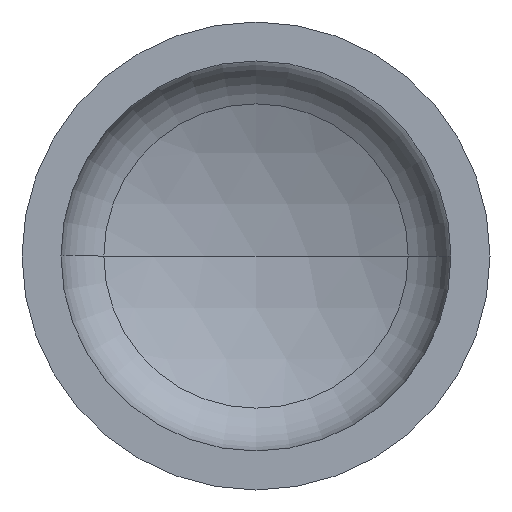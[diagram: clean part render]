
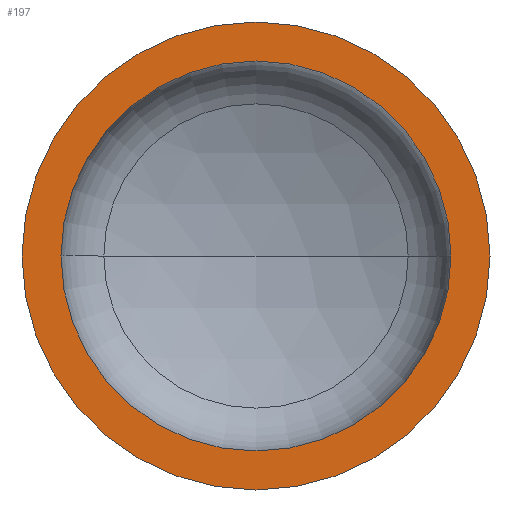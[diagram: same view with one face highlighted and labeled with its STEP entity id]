
A CAD part, front view. The second image highlights one B-rep face of the part: STEP entity #197.
In plain terms, the highlighted planar face has unit normal (0, -1, 0).
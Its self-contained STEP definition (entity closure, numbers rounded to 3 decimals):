
#6 = VERTEX_POINT ( 'NONE', #207 ) ;
#12 = AXIS2_PLACEMENT_3D ( 'NONE', #325, #385, #144 ) ;
#20 = EDGE_LOOP ( 'NONE', ( #254, #346 ) ) ;
#26 = CARTESIAN_POINT ( 'NONE',  ( -600., 0., 0. ) ) ;
#35 = DIRECTION ( 'NONE',  ( -1., 0., 0. ) ) ;
#38 = PLANE ( 'NONE',  #150 ) ;
#43 = AXIS2_PLACEMENT_3D ( 'NONE', #129, #143, #149 ) ;
#51 = CARTESIAN_POINT ( 'NONE',  ( 0., 0., 0. ) ) ;
#59 = AXIS2_PLACEMENT_3D ( 'NONE', #195, #175, #174 ) ;
#60 = EDGE_CURVE ( 'NONE', #374, #333, #291, .T. ) ;
#70 = EDGE_CURVE ( 'NONE', #318, #6, #135, .T. ) ;
#78 = DIRECTION ( 'NONE',  ( 0., -1., 0. ) ) ;
#80 = DIRECTION ( 'NONE',  ( 1., 0., 0. ) ) ;
#105 = CARTESIAN_POINT ( 'NONE',  ( -500., 0., 0. ) ) ;
#129 = CARTESIAN_POINT ( 'NONE',  ( 0., 0., 0. ) ) ;
#135 = CIRCLE ( 'NONE', #43, 600. ) ;
#143 = DIRECTION ( 'NONE',  ( 0., -1., 0. ) ) ;
#144 = DIRECTION ( 'NONE',  ( 1., 0., 0. ) ) ;
#149 = DIRECTION ( 'NONE',  ( 1., 0., 0. ) ) ;
#150 = AXIS2_PLACEMENT_3D ( 'NONE', #26, #194, #35 ) ;
#152 = CIRCLE ( 'NONE', #12, 600. ) ;
#172 = FACE_OUTER_BOUND ( 'NONE', #315, .T. ) ;
#174 = DIRECTION ( 'NONE',  ( 1., 0., 0. ) ) ;
#175 = DIRECTION ( 'NONE',  ( 0., -1., 0. ) ) ;
#194 = DIRECTION ( 'NONE',  ( 0., 1., 0. ) ) ;
#195 = CARTESIAN_POINT ( 'NONE',  ( 0., 0., 0. ) ) ;
#197 = ADVANCED_FACE ( 'NONE', ( #406, #172 ), #38, .F. ) ;
#207 = CARTESIAN_POINT ( 'NONE',  ( 600., 0., 0. ) ) ;
#254 = ORIENTED_EDGE ( 'NONE', *, *, #60, .F. ) ;
#291 = CIRCLE ( 'NONE', #59, 500. ) ;
#302 = CIRCLE ( 'NONE', #304, 500. ) ;
#303 = ORIENTED_EDGE ( 'NONE', *, *, #70, .T. ) ;
#304 = AXIS2_PLACEMENT_3D ( 'NONE', #51, #78, #80 ) ;
#305 = CARTESIAN_POINT ( 'NONE',  ( 500., 0., 0. ) ) ;
#315 = EDGE_LOOP ( 'NONE', ( #390, #303 ) ) ;
#318 = VERTEX_POINT ( 'NONE', #352 ) ;
#325 = CARTESIAN_POINT ( 'NONE',  ( 0., 0., 0. ) ) ;
#331 = EDGE_CURVE ( 'NONE', #6, #318, #152, .T. ) ;
#333 = VERTEX_POINT ( 'NONE', #105 ) ;
#339 = EDGE_CURVE ( 'NONE', #333, #374, #302, .T. ) ;
#346 = ORIENTED_EDGE ( 'NONE', *, *, #339, .F. ) ;
#352 = CARTESIAN_POINT ( 'NONE',  ( -600., 0., 0. ) ) ;
#374 = VERTEX_POINT ( 'NONE', #305 ) ;
#385 = DIRECTION ( 'NONE',  ( 0., -1., 0. ) ) ;
#390 = ORIENTED_EDGE ( 'NONE', *, *, #331, .T. ) ;
#406 = FACE_BOUND ( 'NONE', #20, .T. ) ;
